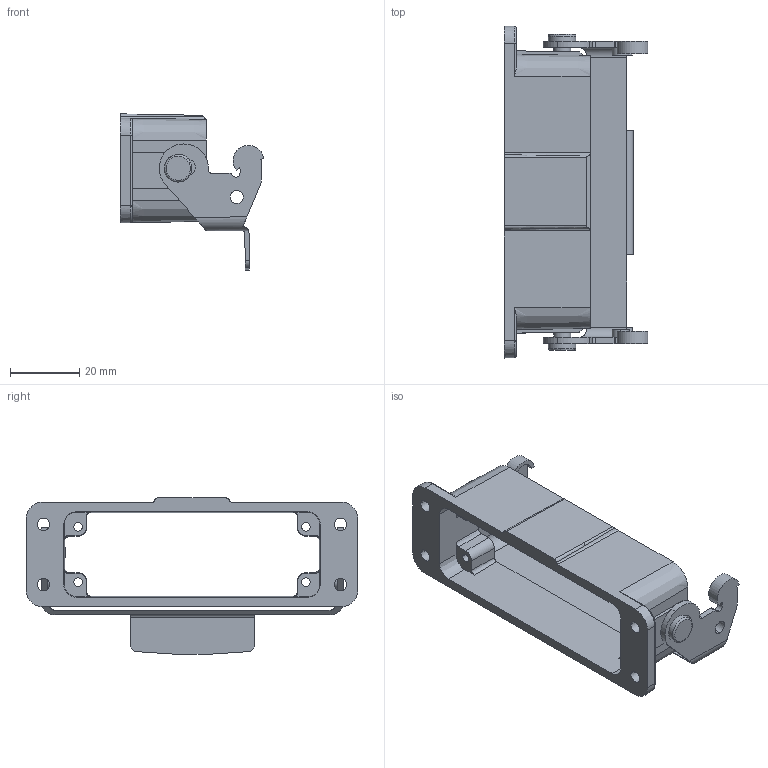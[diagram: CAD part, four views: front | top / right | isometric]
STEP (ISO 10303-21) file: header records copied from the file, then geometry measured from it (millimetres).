
FILE_DESCRIPTION((''),'2;1');
FILE_NAME('H16A-AG','2022-07-11T',('PC'),(''),'PRO/ENGINEER BY PARAMETRIC TECHNOLOGY CORPORATION, 2009220','PRO/ENGINEER BY PARAMETRIC TECHNOLOGY CORPORATION, 2009220','');
FILE_SCHEMA(('CONFIG_CONTROL_DESIGN'));
Length unit declared in the file: millimetre
Products named in the file (1): H16A-AG
Bounding box: 41.68 x 96.12 x 45.25 mm (x, y, z)
Volume: 21252.8 mm3; surface area: 18589.6 mm2
Topology: 1 solids, 1 shells, 232 faces, 655 edges, 432 vertices
Faces by surface type: plane 92, cylinder 89, bspline 35, cone 12, torus 4
Entity records: 9368 total; most frequent: CARTESIAN_POINT 3362, ORIENTED_EDGE 1310, DIRECTION 1160, EDGE_CURVE 655, VERTEX_POINT 432, AXIS2_PLACEMENT_3D 410, VECTOR 340, LINE 340
